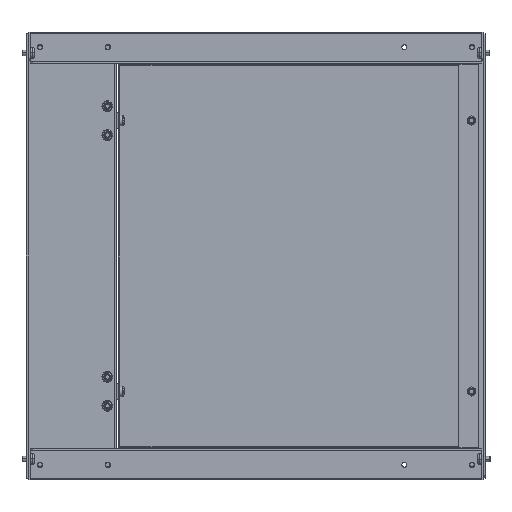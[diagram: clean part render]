
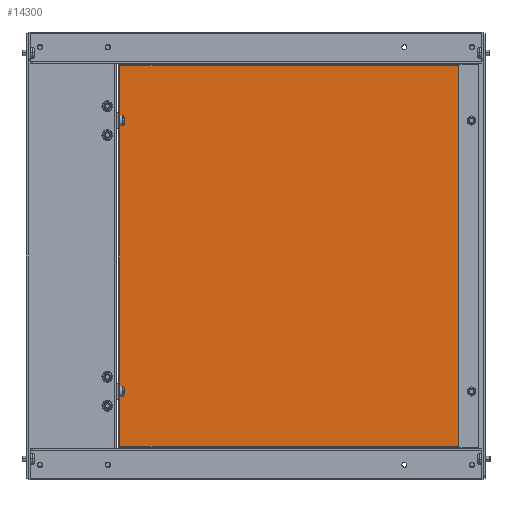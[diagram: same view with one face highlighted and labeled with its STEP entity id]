
A CAD part, left-side view. The second image highlights one B-rep face of the part: STEP entity #14300.
In plain terms, the highlighted planar face has unit normal (-1, 0, 0).
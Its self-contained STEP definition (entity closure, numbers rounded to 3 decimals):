
#476 = CARTESIAN_POINT ( 'NONE',  ( 54.25, 5.25, -709.15 ) ) ;
#500 = EDGE_CURVE ( 'NONE', #15859, #9814, #16727, .T. ) ;
#1521 = LINE ( 'NONE', #20398, #18715 ) ;
#1778 = VERTEX_POINT ( 'NONE', #476 ) ;
#2447 = PLANE ( 'NONE',  #20365 ) ;
#4707 = EDGE_CURVE ( 'NONE', #16231, #1778, #15990, .T. ) ;
#5580 = DIRECTION ( 'NONE',  ( 0., 0., -1. ) ) ;
#5929 = VECTOR ( 'NONE', #5580, 1000. ) ;
#6168 = CARTESIAN_POINT ( 'NONE',  ( 54.25, 193., -288.15 ) ) ;
#7243 = VECTOR ( 'NONE', #12235, 1000. ) ;
#7552 = CARTESIAN_POINT ( 'NONE',  ( 54.25, 380.75, -288.15 ) ) ;
#8035 = ORIENTED_EDGE ( 'NONE', *, *, #22505, .T. ) ;
#8520 = EDGE_LOOP ( 'NONE', ( #17593, #8035, #10938, #9131 ) ) ;
#9131 = ORIENTED_EDGE ( 'NONE', *, *, #21160, .T. ) ;
#9313 = CARTESIAN_POINT ( 'NONE',  ( 54.25, 380.75, -709.15 ) ) ;
#9814 = VERTEX_POINT ( 'NONE', #7552 ) ;
#10791 = FACE_OUTER_BOUND ( 'NONE', #8520, .T. ) ;
#10938 = ORIENTED_EDGE ( 'NONE', *, *, #4707, .T. ) ;
#12104 = CARTESIAN_POINT ( 'NONE',  ( 54.25, 193., -709.15 ) ) ;
#12235 = DIRECTION ( 'NONE',  ( 0., -1., 0. ) ) ;
#12586 = DIRECTION ( 'NONE',  ( 0., 1., 0. ) ) ;
#12878 = DIRECTION ( 'NONE',  ( -1., 0., 0. ) ) ;
#14300 = ADVANCED_FACE ( 'NONE', ( #10791 ), #2447, .T. ) ;
#15859 = VERTEX_POINT ( 'NONE', #17300 ) ;
#15990 = LINE ( 'NONE', #12104, #7243 ) ;
#16231 = VERTEX_POINT ( 'NONE', #9313 ) ;
#16685 = LINE ( 'NONE', #24879, #5929 ) ;
#16727 = LINE ( 'NONE', #6168, #17201 ) ;
#16903 = CARTESIAN_POINT ( 'NONE',  ( 54.25, 193., -498.65 ) ) ;
#17201 = VECTOR ( 'NONE', #12586, 1000. ) ;
#17300 = CARTESIAN_POINT ( 'NONE',  ( 54.25, 5.25, -288.15 ) ) ;
#17593 = ORIENTED_EDGE ( 'NONE', *, *, #500, .T. ) ;
#17928 = DIRECTION ( 'NONE',  ( 0., 0., 1. ) ) ;
#18715 = VECTOR ( 'NONE', #17928, 1000. ) ;
#19373 = DIRECTION ( 'NONE',  ( 0., 1., 0. ) ) ;
#20365 = AXIS2_PLACEMENT_3D ( 'NONE', #16903, #12878, #19373 ) ;
#20398 = CARTESIAN_POINT ( 'NONE',  ( 54.25, 5.25, -498.65 ) ) ;
#21160 = EDGE_CURVE ( 'NONE', #1778, #15859, #1521, .T. ) ;
#22505 = EDGE_CURVE ( 'NONE', #9814, #16231, #16685, .T. ) ;
#24879 = CARTESIAN_POINT ( 'NONE',  ( 54.25, 380.75, -498.65 ) ) ;
